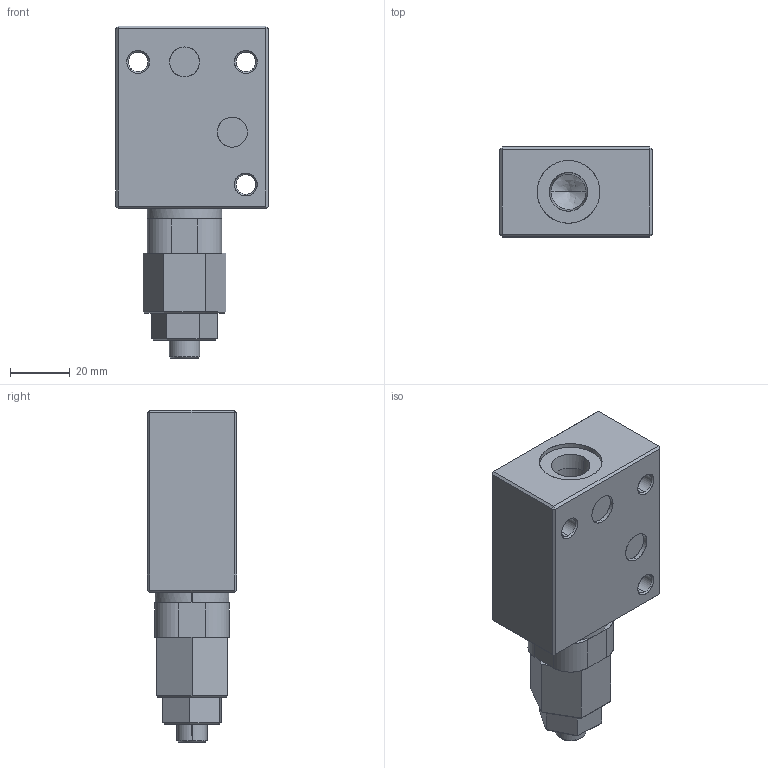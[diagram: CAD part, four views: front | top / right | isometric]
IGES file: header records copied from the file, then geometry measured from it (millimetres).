
Start section: SolidWorks IGES file using analytic representation for surfaces
Global section: file name: C:\Users\CLASP\Desktop\NEW-SEQ-IN\SV11-IN-IGS..IGS; native system: SolidWorks 2019; preprocessor: SolidWorks 2019; author: SSVT; date: 211216.103223; units: millimetre
Bounding box: 51 x 30 x 111 mm (x, y, z)
Surface area: 19793 mm2 (no closed solid volume)
Topology: 0 solids, 0 shells, 133 faces, 1434 edges, 1430 vertices
Faces by surface type: bspline 79, revolution 54
